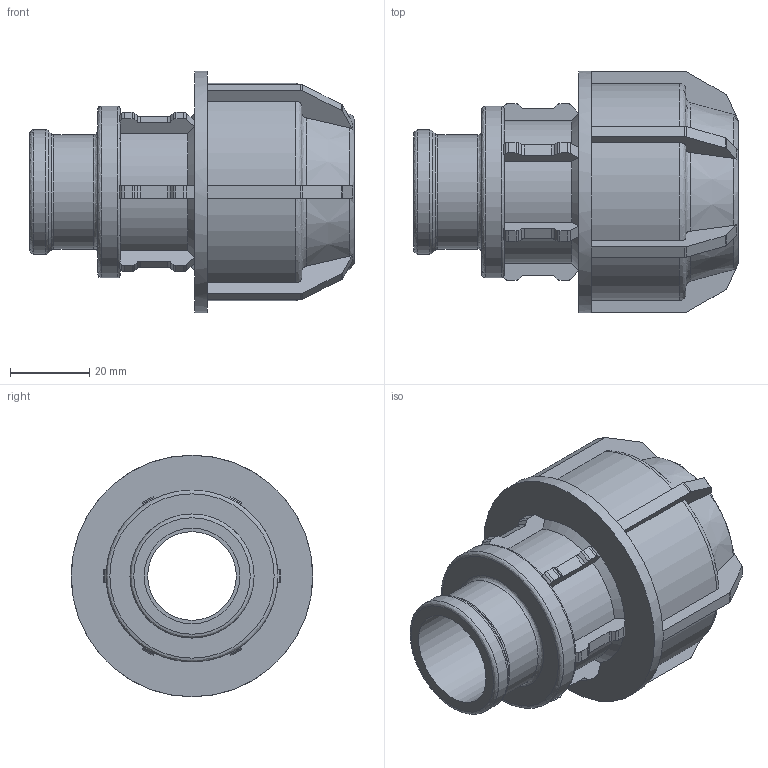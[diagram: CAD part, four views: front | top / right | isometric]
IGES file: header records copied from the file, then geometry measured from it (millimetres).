
Global section: file name: 140300032007.ipt; native system: Autodesk Inventor 2015; preprocessor: unknown; author: KIM; date: 20180409.131008; units: millimetre
Bounding box: 82 x 61 x 61 mm (x, y, z)
Volume: 68954.8 mm3; surface area: 26495.6 mm2
Topology: 1 solids, 1 shells, 260 faces, 737 edges, 476 vertices
Faces by surface type: plane 159, cylinder 52, revolution 36, cone 13
Full cylindrical faces by diameter (mm): 28.94 x1, 31.352 x1, 43.411 x1, 61 x1
